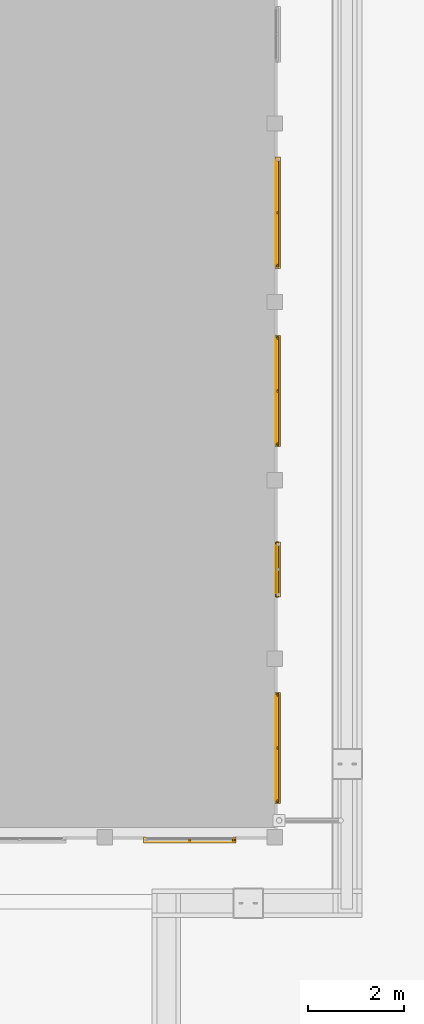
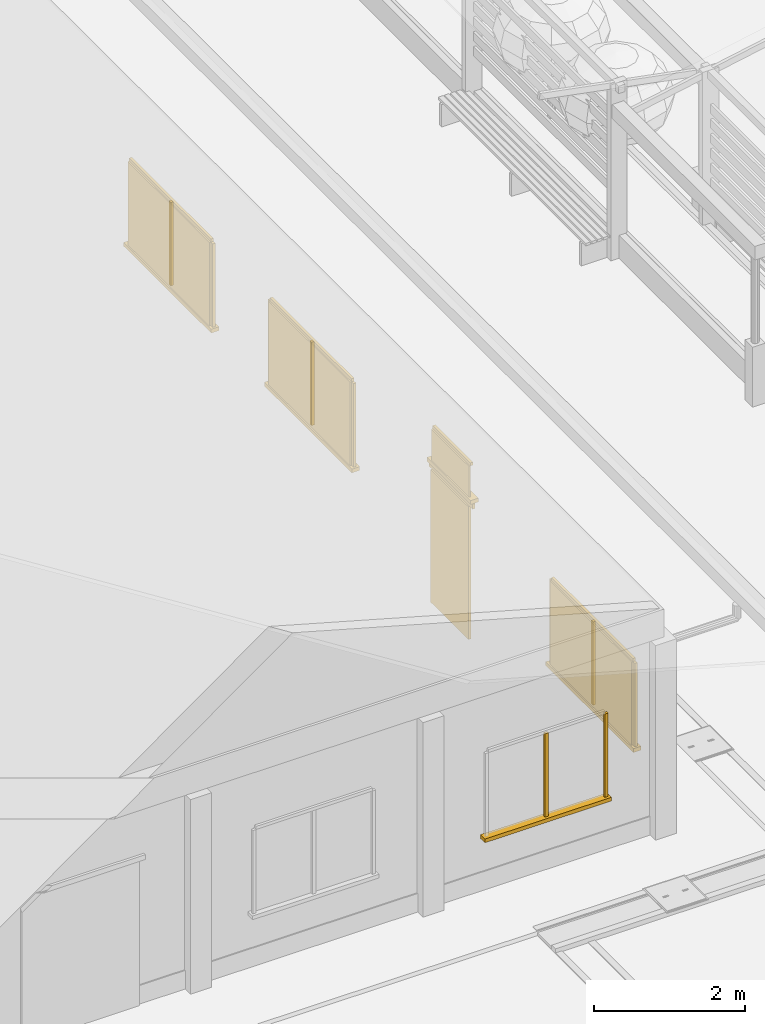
# One storey, part 45 of 177: 23 windows, 2 doors.
"""IFC4 building model written with IfcOpenShell, lengths in metres."""

from ifc_helpers import new_model, si_unit, origin, origin_with_axes, place, context, subcontext, project, spatial, triangles, element, save


model = new_model("IFC4")

# Units and contexts
model_context = context("Model", 3, precision=1e-05, world=origin_with_axes())
body_context = subcontext(model_context, "Body", "Model", "MODEL_VIEW")
ifc_project = project(units=[si_unit("LENGTHUNIT", "METRE"), si_unit("AREAUNIT", "SQUARE_METRE"), si_unit("VOLUMEUNIT", "CUBIC_METRE"), si_unit("PLANEANGLEUNIT", "RADIAN")], contexts=[model_context])

# Site, building, storey
site_placement = place(None, origin_with_axes())
site = spatial("IfcSite", under=ifc_project, at=site_placement, Name="Predio Los Mangos - Morales, San Martín", CompositionType="ELEMENT")
building_placement = place(site_placement, origin())
building = spatial("IfcBuilding", under=site, at=building_placement, Name="Hogar de Refugio Temporal", CompositionType="ELEMENT")
storey_placement = place(building_placement, origin())
storey = spatial("IfcBuildingStorey", under=building, at=storey_placement, Name="NIVEL 1 (NPT +0.00)", CompositionType="ELEMENT", Elevation=0.0)

# Windows
window_1_placement = place(storey_placement, origin())
element("IfcWindow", 1, at=window_1_placement, inside=storey, Name="E-01_vg4_m", ObjectType="Ventana", PredefinedType="WINDOW", context=body_context, shape_type="Tessellation", body=[
    triangles([(30.71, 26.22, 1.05), (30.76, 26.22, 1.05), (30.76, 26.26, 1.05), (30.71, 26.26, 1.05), (30.71, 26.22, 2.4), (30.76, 26.22, 2.4), (30.76, 26.26, 2.4), (30.71, 26.26, 2.4)], [[1, 4, 3], [1, 3, 2], [5, 6, 7], [5, 7, 8], [1, 2, 6], [1, 6, 5], [2, 3, 7], [2, 7, 6], [3, 4, 8], [3, 8, 7], [4, 1, 5], [4, 5, 8]]),
])
window_2_placement = place(storey_placement, origin())
element("IfcWindow", 2, at=window_2_placement, inside=storey, Name="E-01_vg4_m", ObjectType="Ventana", PredefinedType="WINDOW", context=body_context, shape_type="Tessellation", body=[
    triangles([(29.795, 26.22, 1.05), (29.845, 26.22, 1.05), (29.845, 26.26, 1.05), (29.795, 26.26, 1.05), (29.795, 26.22, 2.4), (29.845, 26.22, 2.4), (29.845, 26.26, 2.4), (29.795, 26.26, 2.4)], [[1, 4, 3], [1, 3, 2], [5, 6, 7], [5, 7, 8], [1, 2, 6], [1, 6, 5], [2, 3, 7], [2, 7, 6], [3, 4, 8], [3, 8, 7], [4, 1, 5], [4, 5, 8]]),
])
window_3_placement = place(storey_placement, origin())
element("IfcWindow", 3, at=window_3_placement, inside=storey, Name="E-01_vg4_alf", ObjectType="Ventana", PredefinedType="WINDOW", context=body_context, shape_type="Tessellation", body=[
    triangles([(28.85, 26.3, 0.99), (30.79, 26.3, 0.99), (30.79, 26.18, 0.99), (28.85, 26.18, 0.99), (28.85, 26.3, 1.05), (30.79, 26.3, 1.05), (30.79, 26.18, 1.05), (28.85, 26.18, 1.05)], [[1, 4, 3], [1, 3, 2], [5, 6, 7], [5, 7, 8], [1, 2, 6], [1, 6, 5], [2, 3, 7], [2, 7, 6], [3, 4, 8], [3, 8, 7], [4, 1, 5], [4, 5, 8]]),
])
window_4_placement = place(storey_placement, origin())
element("IfcWindow", 4, at=window_4_placement, inside=storey, Name="E-01_v0_vid", ObjectType="Ventana", PredefinedType="WINDOW", context=body_context, shape_type="Tessellation", body=[
    triangles([(31.62, 27.084, 1.05), (31.64, 27.084, 1.05), (31.64, 29.2493, 1.05), (31.62, 29.2493, 1.05), (31.62, 27.084, 2.4), (31.64, 27.084, 2.4), (31.64, 29.2493, 2.4), (31.62, 29.2493, 2.4)], [[1, 4, 3], [1, 3, 2], [5, 6, 7], [5, 7, 8], [1, 2, 6], [1, 6, 5], [2, 3, 7], [2, 7, 6], [3, 4, 8], [3, 8, 7], [4, 1, 5], [4, 5, 8]]),
])
window_5_placement = place(storey_placement, origin())
element("IfcWindow", 5, at=window_5_placement, inside=storey, Name="E-01_v0_m", ObjectType="Ventana", PredefinedType="WINDOW", context=body_context, shape_type="Tessellation", body=[
    triangles([(31.64, 27.034, 1.05), (31.68, 27.034, 1.05), (31.68, 27.084, 1.05), (31.64, 27.084, 1.05), (31.64, 27.034, 2.4), (31.68, 27.034, 2.4), (31.68, 27.084, 2.4), (31.64, 27.084, 2.4)], [[1, 4, 3], [1, 3, 2], [5, 6, 7], [5, 7, 8], [1, 2, 6], [1, 6, 5], [2, 3, 7], [2, 7, 6], [3, 4, 8], [3, 8, 7], [4, 1, 5], [4, 5, 8]]),
])
window_6_placement = place(storey_placement, origin())
element("IfcWindow", 6, at=window_6_placement, inside=storey, Name="E-01_v0_m", ObjectType="Ventana", PredefinedType="WINDOW", context=body_context, shape_type="Tessellation", body=[
    triangles([(31.64, 29.2493, 1.05), (31.68, 29.2493, 1.05), (31.68, 29.2993, 1.05), (31.64, 29.2993, 1.05), (31.64, 29.2493, 2.4), (31.68, 29.2493, 2.4), (31.68, 29.2993, 2.4), (31.64, 29.2993, 2.4)], [[1, 4, 3], [1, 3, 2], [5, 6, 7], [5, 7, 8], [1, 2, 6], [1, 6, 5], [2, 3, 7], [2, 7, 6], [3, 4, 8], [3, 8, 7], [4, 1, 5], [4, 5, 8]]),
])
window_7_placement = place(storey_placement, origin())
element("IfcWindow", 7, at=window_7_placement, inside=storey, Name="E-01_v0_m", ObjectType="Ventana", PredefinedType="WINDOW", context=body_context, shape_type="Tessellation", body=[
    triangles([(31.64, 27.084, 2.4), (31.68, 27.084, 2.4), (31.68, 29.2493, 2.4), (31.64, 29.2493, 2.4), (31.64, 27.084, 2.45), (31.68, 27.084, 2.45), (31.68, 29.2493, 2.45), (31.64, 29.2493, 2.45)], [[1, 4, 3], [1, 3, 2], [5, 6, 7], [5, 7, 8], [1, 2, 6], [1, 6, 5], [2, 3, 7], [2, 7, 6], [3, 4, 8], [3, 8, 7], [4, 1, 5], [4, 5, 8]]),
])
window_8_placement = place(storey_placement, origin())
element("IfcWindow", 8, at=window_8_placement, inside=storey, Name="E-01_v0_m", ObjectType="Ventana", PredefinedType="WINDOW", context=body_context, shape_type="Tessellation", body=[
    triangles([(31.64, 28.1417, 1.05), (31.68, 28.1417, 1.05), (31.68, 28.1917, 1.05), (31.64, 28.1917, 1.05), (31.64, 28.1417, 2.4), (31.68, 28.1417, 2.4), (31.68, 28.1917, 2.4), (31.64, 28.1917, 2.4)], [[1, 4, 3], [1, 3, 2], [5, 6, 7], [5, 7, 8], [1, 2, 6], [1, 6, 5], [2, 3, 7], [2, 7, 6], [3, 4, 8], [3, 8, 7], [4, 1, 5], [4, 5, 8]]),
])
window_9_placement = place(storey_placement, origin())
element("IfcWindow", 9, at=window_9_placement, inside=storey, Name="E-01_v0_alf", ObjectType="Ventana", PredefinedType="WINDOW", context=body_context, shape_type="Tessellation", body=[
    triangles([(31.6, 27.004, 0.99), (31.72, 27.004, 0.99), (31.72, 29.3293, 0.99), (31.6, 29.3293, 0.99), (31.6, 27.004, 1.05), (31.72, 27.004, 1.05), (31.72, 29.3293, 1.05), (31.6, 29.3293, 1.05)], [[1, 4, 3], [1, 3, 2], [5, 6, 7], [5, 7, 8], [1, 2, 6], [1, 6, 5], [2, 3, 7], [2, 7, 6], [3, 4, 8], [3, 8, 7], [4, 1, 5], [4, 5, 8]]),
])

# Doors
door_1_placement = place(storey_placement, origin())
element("IfcDoor", 10, at=door_1_placement, inside=storey, Name="E-01_p1", ObjectType="Puerta", PredefinedType="DOOR", context=body_context, shape_type="Tessellation", body=[
    triangles([(31.61, 31.4, 0.15), (31.65, 31.4, 0.15), (31.65, 32.4, 0.15), (31.61, 32.4, 0.15), (31.61, 31.4, 2.3), (31.65, 31.4, 2.3), (31.65, 32.4, 2.3), (31.61, 32.4, 2.3)], [[1, 4, 3], [1, 3, 2], [5, 6, 7], [5, 7, 8], [1, 2, 6], [1, 6, 5], [2, 3, 7], [2, 7, 6], [3, 4, 8], [3, 8, 7], [4, 1, 5], [4, 5, 8]]),
])
door_2_placement = place(storey_placement, origin())
element("IfcDoor", 11, at=door_2_placement, inside=storey, Name="E-01_p1_marco", ObjectType="Puerta", PredefinedType="DOOR", context=body_context, shape_type="Tessellation", body=[
    triangles([(31.63, 31.32, 2.3), (31.67, 31.32, 2.3), (31.67, 32.48, 2.3), (31.63, 32.48, 2.3), (31.63, 31.32, 2.38), (31.67, 31.32, 2.38), (31.67, 32.48, 2.38), (31.63, 32.48, 2.38)], [[1, 4, 3], [1, 3, 2], [5, 6, 7], [5, 7, 8], [1, 2, 6], [1, 6, 5], [2, 3, 7], [2, 7, 6], [3, 4, 8], [3, 8, 7], [4, 1, 5], [4, 5, 8]]),
])

# Windows
window_10_placement = place(storey_placement, origin())
element("IfcWindow", 12, at=window_10_placement, inside=storey, Name="E-01_vt1_vid", ObjectType="Ventana", PredefinedType="WINDOW", context=body_context, shape_type="Tessellation", body=[
    triangles([(31.62, 31.4, 2.45), (31.64, 31.4, 2.45), (31.64, 32.4, 2.45), (31.62, 32.4, 2.45), (31.62, 31.4, 2.95), (31.64, 31.4, 2.95), (31.64, 32.4, 2.95), (31.62, 32.4, 2.95)], [[1, 4, 3], [1, 3, 2], [5, 6, 7], [5, 7, 8], [1, 2, 6], [1, 6, 5], [2, 3, 7], [2, 7, 6], [3, 4, 8], [3, 8, 7], [4, 1, 5], [4, 5, 8]]),
])
window_11_placement = place(storey_placement, origin())
element("IfcWindow", 13, at=window_11_placement, inside=storey, Name="E-01_vt1_m", ObjectType="Ventana", PredefinedType="WINDOW", context=body_context, shape_type="Tessellation", body=[
    triangles([(31.64, 31.4, 2.95), (31.68, 31.4, 2.95), (31.68, 32.4, 2.95), (31.64, 32.4, 2.95), (31.64, 31.4, 3.0), (31.68, 31.4, 3.0), (31.68, 32.4, 3.0), (31.64, 32.4, 3.0)], [[1, 4, 3], [1, 3, 2], [5, 6, 7], [5, 7, 8], [1, 2, 6], [1, 6, 5], [2, 3, 7], [2, 7, 6], [3, 4, 8], [3, 8, 7], [4, 1, 5], [4, 5, 8]]),
])
window_12_placement = place(storey_placement, origin())
element("IfcWindow", 14, at=window_12_placement, inside=storey, Name="E-01_vt1_alf", ObjectType="Ventana", PredefinedType="WINDOW", context=body_context, shape_type="Tessellation", body=[
    triangles([(31.6, 31.32, 2.39), (31.72, 31.32, 2.39), (31.72, 32.48, 2.39), (31.6, 32.48, 2.39), (31.6, 31.32, 2.45), (31.72, 31.32, 2.45), (31.72, 32.48, 2.45), (31.6, 32.48, 2.45)], [[1, 4, 3], [1, 3, 2], [5, 6, 7], [5, 7, 8], [1, 2, 6], [1, 6, 5], [2, 3, 7], [2, 7, 6], [3, 4, 8], [3, 8, 7], [4, 1, 5], [4, 5, 8]]),
])
window_13_placement = place(storey_placement, origin())
element("IfcWindow", 15, at=window_13_placement, inside=storey, Name="E-01_v2_vid", ObjectType="Ventana", PredefinedType="WINDOW", context=body_context, shape_type="Tessellation", body=[
    triangles([(31.62, 34.5507, 1.05), (31.64, 34.5507, 1.05), (31.64, 36.716, 1.05), (31.62, 36.716, 1.05), (31.62, 34.5507, 2.4), (31.64, 34.5507, 2.4), (31.64, 36.716, 2.4), (31.62, 36.716, 2.4)], [[1, 4, 3], [1, 3, 2], [5, 6, 7], [5, 7, 8], [1, 2, 6], [1, 6, 5], [2, 3, 7], [2, 7, 6], [3, 4, 8], [3, 8, 7], [4, 1, 5], [4, 5, 8]]),
])
window_14_placement = place(storey_placement, origin())
element("IfcWindow", 16, at=window_14_placement, inside=storey, Name="E-01_v2_m", ObjectType="Ventana", PredefinedType="WINDOW", context=body_context, shape_type="Tessellation", body=[
    triangles([(31.64, 34.5007, 1.05), (31.68, 34.5007, 1.05), (31.68, 34.5507, 1.05), (31.64, 34.5507, 1.05), (31.64, 34.5007, 2.4), (31.68, 34.5007, 2.4), (31.68, 34.5507, 2.4), (31.64, 34.5507, 2.4)], [[1, 4, 3], [1, 3, 2], [5, 6, 7], [5, 7, 8], [1, 2, 6], [1, 6, 5], [2, 3, 7], [2, 7, 6], [3, 4, 8], [3, 8, 7], [4, 1, 5], [4, 5, 8]]),
])
window_15_placement = place(storey_placement, origin())
element("IfcWindow", 17, at=window_15_placement, inside=storey, Name="E-01_v2_m", ObjectType="Ventana", PredefinedType="WINDOW", context=body_context, shape_type="Tessellation", body=[
    triangles([(31.64, 36.716, 1.05), (31.68, 36.716, 1.05), (31.68, 36.766, 1.05), (31.64, 36.766, 1.05), (31.64, 36.716, 2.4), (31.68, 36.716, 2.4), (31.68, 36.766, 2.4), (31.64, 36.766, 2.4)], [[1, 4, 3], [1, 3, 2], [5, 6, 7], [5, 7, 8], [1, 2, 6], [1, 6, 5], [2, 3, 7], [2, 7, 6], [3, 4, 8], [3, 8, 7], [4, 1, 5], [4, 5, 8]]),
])
window_16_placement = place(storey_placement, origin())
element("IfcWindow", 18, at=window_16_placement, inside=storey, Name="E-01_v2_m", ObjectType="Ventana", PredefinedType="WINDOW", context=body_context, shape_type="Tessellation", body=[
    triangles([(31.64, 34.5507, 2.4), (31.68, 34.5507, 2.4), (31.68, 36.716, 2.4), (31.64, 36.716, 2.4), (31.64, 34.5507, 2.45), (31.68, 34.5507, 2.45), (31.68, 36.716, 2.45), (31.64, 36.716, 2.45)], [[1, 4, 3], [1, 3, 2], [5, 6, 7], [5, 7, 8], [1, 2, 6], [1, 6, 5], [2, 3, 7], [2, 7, 6], [3, 4, 8], [3, 8, 7], [4, 1, 5], [4, 5, 8]]),
])
window_17_placement = place(storey_placement, origin())
element("IfcWindow", 19, at=window_17_placement, inside=storey, Name="E-01_v2_m", ObjectType="Ventana", PredefinedType="WINDOW", context=body_context, shape_type="Tessellation", body=[
    triangles([(31.64, 35.6083, 1.05), (31.68, 35.6083, 1.05), (31.68, 35.6583, 1.05), (31.64, 35.6583, 1.05), (31.64, 35.6083, 2.4), (31.68, 35.6083, 2.4), (31.68, 35.6583, 2.4), (31.64, 35.6583, 2.4)], [[1, 4, 3], [1, 3, 2], [5, 6, 7], [5, 7, 8], [1, 2, 6], [1, 6, 5], [2, 3, 7], [2, 7, 6], [3, 4, 8], [3, 8, 7], [4, 1, 5], [4, 5, 8]]),
])
window_18_placement = place(storey_placement, origin())
element("IfcWindow", 20, at=window_18_placement, inside=storey, Name="E-01_v2_alf", ObjectType="Ventana", PredefinedType="WINDOW", context=body_context, shape_type="Tessellation", body=[
    triangles([(31.6, 34.4707, 0.99), (31.72, 34.4707, 0.99), (31.72, 36.796, 0.99), (31.6, 36.796, 0.99), (31.6, 34.4707, 1.05), (31.72, 34.4707, 1.05), (31.72, 36.796, 1.05), (31.6, 36.796, 1.05)], [[1, 4, 3], [1, 3, 2], [5, 6, 7], [5, 7, 8], [1, 2, 6], [1, 6, 5], [2, 3, 7], [2, 7, 6], [3, 4, 8], [3, 8, 7], [4, 1, 5], [4, 5, 8]]),
])
window_19_placement = place(storey_placement, origin())
element("IfcWindow", 21, at=window_19_placement, inside=storey, Name="E-01_v3_vid", ObjectType="Ventana", PredefinedType="WINDOW", context=body_context, shape_type="Tessellation", body=[
    triangles([(31.62, 38.284, 1.05), (31.64, 38.284, 1.05), (31.64, 40.4493, 1.05), (31.62, 40.4493, 1.05), (31.62, 38.284, 2.4), (31.64, 38.284, 2.4), (31.64, 40.4493, 2.4), (31.62, 40.4493, 2.4)], [[1, 4, 3], [1, 3, 2], [5, 6, 7], [5, 7, 8], [1, 2, 6], [1, 6, 5], [2, 3, 7], [2, 7, 6], [3, 4, 8], [3, 8, 7], [4, 1, 5], [4, 5, 8]]),
])
window_20_placement = place(storey_placement, origin())
element("IfcWindow", 22, at=window_20_placement, inside=storey, Name="E-01_v3_m", ObjectType="Ventana", PredefinedType="WINDOW", context=body_context, shape_type="Tessellation", body=[
    triangles([(31.64, 38.234, 1.05), (31.68, 38.234, 1.05), (31.68, 38.284, 1.05), (31.64, 38.284, 1.05), (31.64, 38.234, 2.4), (31.68, 38.234, 2.4), (31.68, 38.284, 2.4), (31.64, 38.284, 2.4)], [[1, 4, 3], [1, 3, 2], [5, 6, 7], [5, 7, 8], [1, 2, 6], [1, 6, 5], [2, 3, 7], [2, 7, 6], [3, 4, 8], [3, 8, 7], [4, 1, 5], [4, 5, 8]]),
])
window_21_placement = place(storey_placement, origin())
element("IfcWindow", 23, at=window_21_placement, inside=storey, Name="E-01_v3_m", ObjectType="Ventana", PredefinedType="WINDOW", context=body_context, shape_type="Tessellation", body=[
    triangles([(31.64, 38.284, 2.4), (31.68, 38.284, 2.4), (31.68, 40.4493, 2.4), (31.64, 40.4493, 2.4), (31.64, 38.284, 2.45), (31.68, 38.284, 2.45), (31.68, 40.4493, 2.45), (31.64, 40.4493, 2.45)], [[1, 4, 3], [1, 3, 2], [5, 6, 7], [5, 7, 8], [1, 2, 6], [1, 6, 5], [2, 3, 7], [2, 7, 6], [3, 4, 8], [3, 8, 7], [4, 1, 5], [4, 5, 8]]),
])
window_22_placement = place(storey_placement, origin())
element("IfcWindow", 24, at=window_22_placement, inside=storey, Name="E-01_v3_m", ObjectType="Ventana", PredefinedType="WINDOW", context=body_context, shape_type="Tessellation", body=[
    triangles([(31.64, 39.3417, 1.05), (31.68, 39.3417, 1.05), (31.68, 39.3917, 1.05), (31.64, 39.3917, 1.05), (31.64, 39.3417, 2.4), (31.68, 39.3417, 2.4), (31.68, 39.3917, 2.4), (31.64, 39.3917, 2.4)], [[1, 4, 3], [1, 3, 2], [5, 6, 7], [5, 7, 8], [1, 2, 6], [1, 6, 5], [2, 3, 7], [2, 7, 6], [3, 4, 8], [3, 8, 7], [4, 1, 5], [4, 5, 8]]),
])
window_23_placement = place(storey_placement, origin())
element("IfcWindow", 25, at=window_23_placement, inside=storey, Name="E-01_v3_alf", ObjectType="Ventana", PredefinedType="WINDOW", context=body_context, shape_type="Tessellation", body=[
    triangles([(31.6, 38.204, 0.99), (31.72, 38.204, 0.99), (31.72, 40.5293, 0.99), (31.6, 40.5293, 0.99), (31.6, 38.204, 1.05), (31.72, 38.204, 1.05), (31.72, 40.5293, 1.05), (31.6, 40.5293, 1.05)], [[1, 4, 3], [1, 3, 2], [5, 6, 7], [5, 7, 8], [1, 2, 6], [1, 6, 5], [2, 3, 7], [2, 7, 6], [3, 4, 8], [3, 8, 7], [4, 1, 5], [4, 5, 8]]),
])

save(model, "model.ifc")
